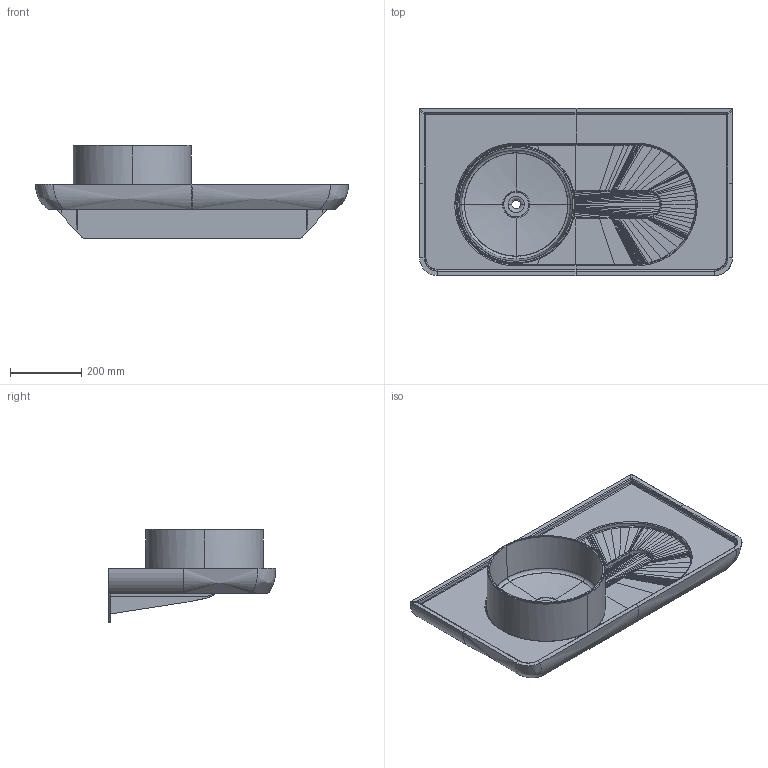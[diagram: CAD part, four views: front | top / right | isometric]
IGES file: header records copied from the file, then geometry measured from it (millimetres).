
Global section: file name: C:\Users\pc\Desktop\Archivio Nic 2023\Mediterraneo 88 cod 001 912\Modello 3d\Mediterraneo 88.igs; native system: Rhinoceros ( Dec  8 2020 ); preprocessor: Trout Lake IGES 012 Dec  8 2020; date: 231210.163017; units: millimetre
Bounding box: 875.08 x 468.01 x 262 mm (x, y, z)
Surface area: 1821947.5 mm2 (no closed solid volume)
Topology: 0 solids, 0 shells, 1439 faces, 7459 edges, 7432 vertices
Faces by surface type: bspline 1439
